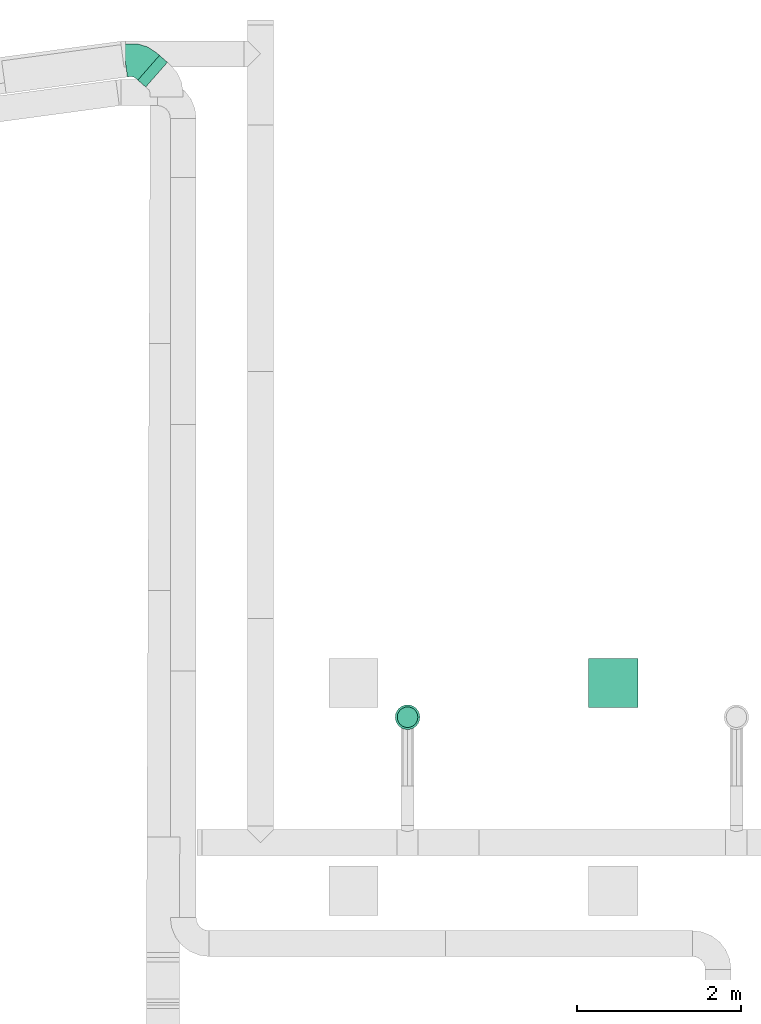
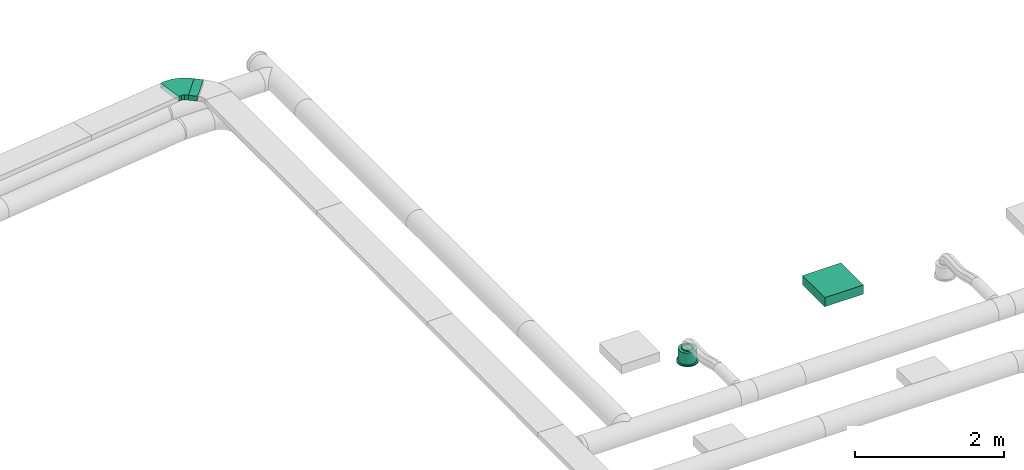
# One storey, part 18 of 119: 3 distribution elements, 1 flow terminal.
"""IFC2X3 building model written with IfcOpenShell, lengths in metres."""

from ifc_helpers import new_model, si_unit, direction, frame, frame_2d, origin, place, context, subcontext, project, spatial, rectangle, extrude, open_shell, surface_model, source, transform, mapped, element, save


model = new_model("IFC2X3")

# Units and contexts
model_context = context("Model", 3, precision=1e-05, world=origin(), true_north=direction((-0.4480736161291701, 0.8939966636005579)))
body_context = subcontext(model_context, "Body", "Model", "MODEL_VIEW")
ifc_project = project(units=[si_unit("LENGTHUNIT", "METRE"), si_unit("AREAUNIT", "SQUARE_METRE"), si_unit("VOLUMEUNIT", "CUBIC_METRE"), si_unit("PLANEANGLEUNIT", "RADIAN"), si_unit("THERMODYNAMICTEMPERATUREUNIT", "KELVIN"), si_unit("MASSUNIT", "GRAM", prefix="KILO"), si_unit("TIMEUNIT", "SECOND")], contexts=[model_context])

# Site, building, storey
site_placement = place(None, origin())
site = spatial("IfcSite", under=ifc_project, at=site_placement, Name="Site 1", CompositionType="ELEMENT")
building_placement = place(site_placement, origin())
building = spatial("IfcBuilding", under=site, at=building_placement, Name="Undefined", CompositionType="ELEMENT")
storey_placement = place(building_placement, frame((0.0, 0.0, 5.4)))
storey = spatial("IfcBuildingStorey", under=building, at=storey_placement, Name="R+1", CompositionType="ELEMENT", Elevation=5.4)

# Flow terminal
shared_shape_1 = source(origin(), body_context, "Body", "SurfaceModel", [
    surface_model("IfcFaceBasedSurfaceModel", [(0.0, 0.0, 0.0), (0.03915785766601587, 0.0, 0.0), (0.03915785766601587, 0.020000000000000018, 0.0), (3.552713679e-15, 0.020000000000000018, 0.0), (0.07698144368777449, 0.0, -0.010134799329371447), (0.07698144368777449, 0.020000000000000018, -0.010134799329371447), (0.11089314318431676, 0.0, -0.02971372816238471), (0.11089314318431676, 0.020000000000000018, -0.02971372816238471), (0.13858192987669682, 0.0, -0.05740251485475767), (0.13858192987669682, 0.020000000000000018, -0.05740251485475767), (0.15816085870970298, 0.0, -0.09131421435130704), (0.15816085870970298, 0.020000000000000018, -0.09131421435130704), (0.16829565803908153, 0.0, -0.12913780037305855), (0.16829565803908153, 0.020000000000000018, -0.12913780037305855), (0.16829565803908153, 0.0, -0.16829565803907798), (0.16829565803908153, 0.020000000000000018, -0.16829565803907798), (0.15816085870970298, 0.0, -0.20611924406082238), (0.15816085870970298, 0.020000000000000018, -0.20611924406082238), (0.13858192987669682, 0.0, -0.24003094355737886), (0.13858192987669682, 0.020000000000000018, -0.24003094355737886), (0.11089314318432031, 0.0, -0.2677197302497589), (0.11089314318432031, 0.020000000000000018, -0.2677197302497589), (0.07698144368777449, 0.0, -0.2872986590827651), (0.07698144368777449, 0.020000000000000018, -0.2872986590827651), (0.039157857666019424, 0.0, -0.29743345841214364), (0.039157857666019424, 0.020000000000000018, -0.29743345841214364), (3.552713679e-15, 0.0, -0.29743345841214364), (3.552713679e-15, 0.020000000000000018, -0.29743345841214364), (-0.03782358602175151, 0.0, -0.2872986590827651), (-0.03782358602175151, 0.020000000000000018, -0.2872986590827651), (-0.07173528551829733, 0.0, -0.2677197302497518), (-0.07173528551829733, 0.020000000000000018, -0.2677197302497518), (-0.0994240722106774, 0.0, -0.24003094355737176), (-0.0994240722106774, 0.020000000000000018, -0.24003094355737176), (-0.11900300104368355, 0.0, -0.2061192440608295), (-0.11900300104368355, 0.020000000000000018, -0.2061192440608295), (-0.1291378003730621, 0.0, -0.16829565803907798), (-0.1291378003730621, 0.020000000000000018, -0.16829565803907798), (-0.1291378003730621, 0.0, -0.12913780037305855), (-0.1291378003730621, 0.020000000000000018, -0.12913780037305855), (-0.11900300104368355, 0.0, -0.09131421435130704), (-0.11900300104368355, 0.020000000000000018, -0.09131421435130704), (-0.0994240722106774, 0.0, -0.05740251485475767), (-0.0994240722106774, 0.020000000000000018, -0.05740251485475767), (-0.07173528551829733, 0.0, -0.029713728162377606), (-0.07173528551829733, 0.020000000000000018, -0.029713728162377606), (-0.03782358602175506, 0.0, -0.010134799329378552), (-0.03782358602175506, 0.020000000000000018, -0.010134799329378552), (0.019578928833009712, 0.0, -0.14871672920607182), (0.019578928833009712, 0.020000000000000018, -0.14871672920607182), (0.003263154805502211, 0.020000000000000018, -0.02478612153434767), (0.035894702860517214, 0.020000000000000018, -0.02478612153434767), (0.035894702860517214, 0.20999999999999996, -0.02478612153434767), (0.003263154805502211, 0.20999999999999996, -0.02478612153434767), (0.06741435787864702, 0.020000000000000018, -0.033231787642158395), (0.06741435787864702, 0.20999999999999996, -0.033231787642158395), (0.0956741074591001, 0.020000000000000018, -0.04954756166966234), (0.0956741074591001, 0.20999999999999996, -0.04954756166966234), (0.11874809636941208, 0.020000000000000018, -0.07262155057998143), (0.11874809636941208, 0.20999999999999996, -0.07262155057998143), (0.13506387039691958, 0.020000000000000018, -0.10088130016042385), (0.13506387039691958, 0.20999999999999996, -0.10088130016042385), (0.1435095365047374, 0.020000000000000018, -0.13240095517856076), (0.1435095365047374, 0.20999999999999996, -0.13240095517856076), (0.1435095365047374, 0.020000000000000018, -0.16503250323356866), (0.1435095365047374, 0.20999999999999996, -0.16503250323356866), (0.13506387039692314, 0.020000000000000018, -0.19655215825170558), (0.13506387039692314, 0.20999999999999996, -0.19655215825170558), (0.11874809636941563, 0.020000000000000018, -0.2248119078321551), (0.11874809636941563, 0.20999999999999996, -0.2248119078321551), (0.09567410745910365, 0.020000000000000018, -0.24788589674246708), (0.09567410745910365, 0.20999999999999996, -0.24788589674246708), (0.06741435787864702, 0.020000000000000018, -0.26420167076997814), (0.06741435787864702, 0.20999999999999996, -0.26420167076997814), (0.035894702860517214, 0.020000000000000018, -0.27264733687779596), (0.035894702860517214, 0.20999999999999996, -0.27264733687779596), (0.0032631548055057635, 0.020000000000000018, -0.27264733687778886), (0.0032631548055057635, 0.20999999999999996, -0.27264733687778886), (-0.028256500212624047, 0.020000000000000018, -0.26420167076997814), (-0.028256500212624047, 0.20999999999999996, -0.26420167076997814), (-0.05651624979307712, 0.020000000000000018, -0.2478858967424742), (-0.05651624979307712, 0.20999999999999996, -0.2478858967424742), (-0.07959023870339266, 0.020000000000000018, -0.2248119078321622), (-0.07959023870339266, 0.20999999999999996, -0.2248119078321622), (-0.09590601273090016, 0.020000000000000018, -0.19655215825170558), (-0.09590601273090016, 0.20999999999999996, -0.19655215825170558), (-0.10435167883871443, 0.020000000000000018, -0.16503250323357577), (-0.10435167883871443, 0.20999999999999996, -0.16503250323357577), (-0.10435167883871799, 0.020000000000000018, -0.13240095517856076), (-0.10435167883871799, 0.20999999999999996, -0.13240095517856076), (-0.09590601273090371, 0.020000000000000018, -0.10088130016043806), (-0.09590601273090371, 0.20999999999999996, -0.10088130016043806), (-0.07959023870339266, 0.020000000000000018, -0.07262155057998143), (-0.07959023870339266, 0.20999999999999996, -0.07262155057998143), (-0.056516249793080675, 0.020000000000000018, -0.04954756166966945), (-0.056516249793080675, 0.20999999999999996, -0.04954756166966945), (-0.028256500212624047, 0.020000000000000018, -0.033231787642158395), (-0.028256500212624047, 0.20999999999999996, -0.033231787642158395), (0.019578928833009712, 0.20999999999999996, -0.14871672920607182), (0.009136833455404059, 0.20999999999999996, -0.06940114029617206), (0.030021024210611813, 0.20999999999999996, -0.06940114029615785), (0.030021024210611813, 0.22999999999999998, -0.06940114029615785), (0.009136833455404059, 0.22999999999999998, -0.06940114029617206), (0.05019360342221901, 0.20999999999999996, -0.07480636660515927), (0.05019360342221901, 0.22999999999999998, -0.07480636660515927), (0.06827984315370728, 0.20999999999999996, -0.08524846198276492), (0.06827984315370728, 0.22999999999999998, -0.08524846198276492), (0.0830471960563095, 0.20999999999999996, -0.10001581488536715), (0.0830471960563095, 0.22999999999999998, -0.10001581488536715), (0.0934892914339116, 0.20999999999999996, -0.11810205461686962), (0.0934892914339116, 0.22999999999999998, -0.11810205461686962), (0.09889451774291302, 0.20999999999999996, -0.13827463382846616), (0.09889451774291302, 0.22999999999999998, -0.13827463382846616), (0.09889451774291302, 0.20999999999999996, -0.15915882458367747), (0.09889451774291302, 0.22999999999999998, -0.15915882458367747), (0.09348929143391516, 0.20999999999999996, -0.179331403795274), (0.09348929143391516, 0.22999999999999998, -0.179331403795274), (0.0830471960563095, 0.20999999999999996, -0.19741764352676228), (0.0830471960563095, 0.22999999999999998, -0.19741764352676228), (0.06827984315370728, 0.20999999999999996, -0.2121849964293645), (0.06827984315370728, 0.22999999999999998, -0.2121849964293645), (0.05019360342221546, 0.20999999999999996, -0.22262709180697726), (0.05019360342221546, 0.22999999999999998, -0.22262709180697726), (0.030021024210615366, 0.20999999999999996, -0.22803231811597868), (0.030021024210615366, 0.22999999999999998, -0.22803231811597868), (0.009136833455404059, 0.20999999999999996, -0.22803231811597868), (0.009136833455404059, 0.22999999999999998, -0.22803231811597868), (-0.011035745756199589, 0.20999999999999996, -0.22262709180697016), (-0.011035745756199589, 0.22999999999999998, -0.22262709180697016), (-0.0291219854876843, 0.20999999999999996, -0.2121849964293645), (-0.0291219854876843, 0.22999999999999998, -0.2121849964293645), (-0.043889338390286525, 0.20999999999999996, -0.19741764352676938), (-0.043889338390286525, 0.22999999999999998, -0.19741764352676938), (-0.05433143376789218, 0.20999999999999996, -0.17933140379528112), (-0.05433143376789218, 0.22999999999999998, -0.17933140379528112), (-0.05973666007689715, 0.20999999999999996, -0.15915882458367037), (-0.05973666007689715, 0.22999999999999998, -0.15915882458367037), (-0.0597366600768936, 0.20999999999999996, -0.13827463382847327), (-0.0597366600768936, 0.22999999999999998, -0.13827463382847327), (-0.05433143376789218, 0.20999999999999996, -0.11810205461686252), (-0.05433143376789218, 0.22999999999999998, -0.11810205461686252), (-0.043889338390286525, 0.20999999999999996, -0.10001581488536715), (-0.043889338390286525, 0.22999999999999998, -0.10001581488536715), (-0.02912198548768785, 0.20999999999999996, -0.08524846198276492), (-0.02912198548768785, 0.22999999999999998, -0.08524846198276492), (-0.011035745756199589, 0.20999999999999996, -0.07480636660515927), (-0.011035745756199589, 0.22999999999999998, -0.07480636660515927)], [open_shell([[[0, 1, 2, 3]], [[1, 4, 5, 2]], [[4, 6, 7, 5]], [[6, 8, 9, 7]], [[8, 10, 11, 9]], [[10, 12, 13, 11]], [[12, 14, 15, 13]], [[14, 16, 17, 15]], [[16, 18, 19, 17]], [[18, 20, 21, 19]], [[20, 22, 23, 21]], [[22, 24, 25, 23]], [[24, 26, 27, 25]], [[26, 28, 29, 27]], [[28, 30, 31, 29]], [[30, 32, 33, 31]], [[32, 34, 35, 33]], [[34, 36, 37, 35]], [[36, 38, 39, 37]], [[38, 40, 41, 39]], [[40, 42, 43, 41]], [[42, 44, 45, 43]], [[44, 46, 47, 45]], [[46, 0, 3, 47]], [[48, 1, 0]], [[48, 4, 1]], [[48, 6, 4]], [[48, 8, 6]], [[48, 10, 8]], [[48, 12, 10]], [[48, 14, 12]], [[48, 16, 14]], [[48, 18, 16]], [[48, 20, 18]], [[48, 22, 20]], [[48, 24, 22]], [[48, 26, 24]], [[48, 28, 26]], [[48, 30, 28]], [[48, 32, 30]], [[48, 34, 32]], [[48, 36, 34]], [[48, 38, 36]], [[48, 40, 38]], [[48, 42, 40]], [[48, 44, 42]], [[48, 46, 44]], [[48, 0, 46]], [[49, 47, 3]], [[49, 45, 47]], [[49, 43, 45]], [[49, 41, 43]], [[49, 39, 41]], [[49, 37, 39]], [[49, 35, 37]], [[49, 33, 35]], [[49, 31, 33]], [[49, 29, 31]], [[49, 27, 29]], [[49, 25, 27]], [[49, 23, 25]], [[49, 21, 23]], [[49, 19, 21]], [[49, 17, 19]], [[49, 15, 17]], [[49, 13, 15]], [[49, 11, 13]], [[49, 9, 11]], [[49, 7, 9]], [[49, 5, 7]], [[49, 2, 5]], [[49, 3, 2]], [[50, 51, 52, 53]], [[51, 54, 55, 52]], [[54, 56, 57, 55]], [[56, 58, 59, 57]], [[58, 60, 61, 59]], [[60, 62, 63, 61]], [[62, 64, 65, 63]], [[64, 66, 67, 65]], [[66, 68, 69, 67]], [[68, 70, 71, 69]], [[70, 72, 73, 71]], [[72, 74, 75, 73]], [[74, 76, 77, 75]], [[76, 78, 79, 77]], [[78, 80, 81, 79]], [[80, 82, 83, 81]], [[82, 84, 85, 83]], [[84, 86, 87, 85]], [[86, 88, 89, 87]], [[88, 90, 91, 89]], [[90, 92, 93, 91]], [[92, 94, 95, 93]], [[94, 96, 97, 95]], [[96, 50, 53, 97]], [[49, 51, 50]], [[49, 54, 51]], [[49, 56, 54]], [[49, 58, 56]], [[49, 60, 58]], [[49, 62, 60]], [[49, 64, 62]], [[49, 66, 64]], [[49, 68, 66]], [[49, 70, 68]], [[49, 72, 70]], [[49, 74, 72]], [[49, 76, 74]], [[49, 78, 76]], [[49, 80, 78]], [[49, 82, 80]], [[49, 84, 82]], [[49, 86, 84]], [[49, 88, 86]], [[49, 90, 88]], [[49, 92, 90]], [[49, 94, 92]], [[49, 96, 94]], [[49, 50, 96]], [[98, 97, 53]], [[98, 95, 97]], [[98, 93, 95]], [[98, 91, 93]], [[98, 89, 91]], [[98, 87, 89]], [[98, 85, 87]], [[98, 83, 85]], [[98, 81, 83]], [[98, 79, 81]], [[98, 77, 79]], [[98, 75, 77]], [[98, 73, 75]], [[98, 71, 73]], [[98, 69, 71]], [[98, 67, 69]], [[98, 65, 67]], [[98, 63, 65]], [[98, 61, 63]], [[98, 59, 61]], [[98, 57, 59]], [[98, 55, 57]], [[98, 52, 55]], [[98, 53, 52]], [[99, 100, 101, 102]], [[100, 103, 104, 101]], [[103, 105, 106, 104]], [[105, 107, 108, 106]], [[107, 109, 110, 108]], [[109, 111, 112, 110]], [[111, 113, 114, 112]], [[113, 115, 116, 114]], [[115, 117, 118, 116]], [[117, 119, 120, 118]], [[119, 121, 122, 120]], [[121, 123, 124, 122]], [[123, 125, 126, 124]], [[125, 127, 128, 126]], [[127, 129, 130, 128]], [[129, 131, 132, 130]], [[131, 133, 134, 132]], [[133, 135, 136, 134]], [[135, 137, 138, 136]], [[137, 139, 140, 138]], [[139, 141, 142, 140]], [[141, 143, 144, 142]], [[143, 145, 146, 144]], [[145, 99, 102, 146]]])]),
])
flow_terminal_placement = place(storey_placement, origin())
element("IfcFlowTerminal", 1, at=flow_terminal_placement, inside=storey, Name="Air diffuseur - bouche", ObjectType="Air diffuseur - bouche", context=body_context, shape_type="MappedRepresentation", body=[
    mapped(shared_shape_1, transform((30.293289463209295, 21.879995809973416, 2.355), x_axis=(0.9914448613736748, 0.13052619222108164, 0.0), y_axis=(0.0, 0.0, 1.0), z_axis=(0.13052619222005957, -0.9914448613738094, 0.0))),
])

# Distribution elements
shared_shape_2 = source(origin(), body_context, "Body", "SurfaceModel", [
    surface_model("IfcFaceBasedSurfaceModel", [(0.0, 0.049999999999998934, 0.0), (0.0, 0.0, 0.0), (0.08000000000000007, 0.0, 5.82867088e-16), (0.08000000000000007, 0.04999999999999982, 0.0), (0.0, -0.037735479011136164, -0.017197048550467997), (0.07999999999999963, -0.037735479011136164, -0.017197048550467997), (0.0, -0.07053843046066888, -0.054932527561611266), (0.07999999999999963, -0.07053843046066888, -0.054932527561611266), (0.0, -0.37242226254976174, 0.20749108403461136), (0.0, -0.3396193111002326, 0.24522656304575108), (0.07999999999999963, -0.3396193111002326, 0.24522656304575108), (0.07999999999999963, -0.37242226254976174, 0.20749108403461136), (0.07999999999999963, -0.24288779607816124, 0.3288212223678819), (0.0, -0.24288779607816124, 0.3288212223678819), (0.07999999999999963, -0.12655127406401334, 0.38183882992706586), (0.0, -0.12655127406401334, 0.38183882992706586), (0.08000000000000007, 0.0, 0.3999999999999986), (0.0, 0.0, 0.3999999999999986), (-4.4408921e-16, 0.05000000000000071, 0.3999999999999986), (0.07999999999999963, 0.05000000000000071, 0.3999999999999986)], [open_shell([[[0, 1, 2, 3]], [[1, 4, 5, 2]], [[4, 6, 7, 5]], [[8, 9, 10, 11]], [[10, 12, 13, 9]], [[12, 14, 15, 13]], [[14, 16, 17, 15]], [[17, 18, 19, 16]], [[2, 3, 19]], [[5, 2, 19]], [[7, 5, 19]], [[11, 7, 19]], [[10, 11, 19]], [[12, 10, 19]], [[14, 12, 19]], [[16, 14, 19]], [[18, 0, 1]], [[18, 1, 4]], [[18, 4, 6]], [[18, 6, 8]], [[18, 8, 9]], [[18, 9, 13]], [[18, 13, 15]], [[18, 15, 17]]])]),
])
distribution_element_1_placement = place(storey_placement, origin())
element("IfcDistributionElement", 2, at=distribution_element_1_placement, inside=storey, Name="Coude", ObjectType="Coude", context=body_context, shape_type="MappedRepresentation", body=[
    mapped(shared_shape_2, transform((26.935348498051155, 29.82417319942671, 3.164999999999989), x_axis=(0.0, 0.0, -1.0), y_axis=(-0.9908724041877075, -0.13480311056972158, 0.0), z_axis=(-0.13480311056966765, 0.9908724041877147, 0.0))),
])
distribution_element_2_placement = place(storey_placement, origin())
element("IfcDistributionElement", 3, at=distribution_element_2_placement, inside=storey, Name="Chemin(s) de câbles", ObjectType="Chemin(s) de câbles", context=body_context, shape_type="SweptSolid", body=[
    extrude(rectangle(XDim=0.4, YDim=0.08, at=frame_2d((3.552713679e-15, 0.0), x_axis=(-1.0, 0.0))), frame((27.144524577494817, 29.929612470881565, 3.1249999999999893), z_axis=(0.7518079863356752, -0.659382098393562, 9.2425267e-17), x_axis=(-0.659382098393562, -0.7518079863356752, 8.0344059e-17)), (0.0, 0.0, 1.0), 0.12783547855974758),
])
distribution_element_3_placement = place(storey_placement, origin())
element("IfcDistributionElement", 4, at=distribution_element_3_placement, inside=storey, Name="Decken-Rechteckleuchte mit Rahmen AP", ObjectType="Decken-Rechteckleuchte mit Rahmen AP", context=body_context, shape_type="SweptSolid", body=[
    extrude(rectangle(XDim=0.6000000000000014, YDim=0.6000000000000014, at=frame_2d((3.552713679e-15, 0.0), x_axis=(0.0, 1.0))), frame((32.79396833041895, 22.445548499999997, 2.5500000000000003), z_axis=(0.0, 0.0, -1.0), x_axis=(1.0, 0.0, 0.0)), (0.0, 0.0, 1.0), 0.15),
])

save(model, "model.ifc")
